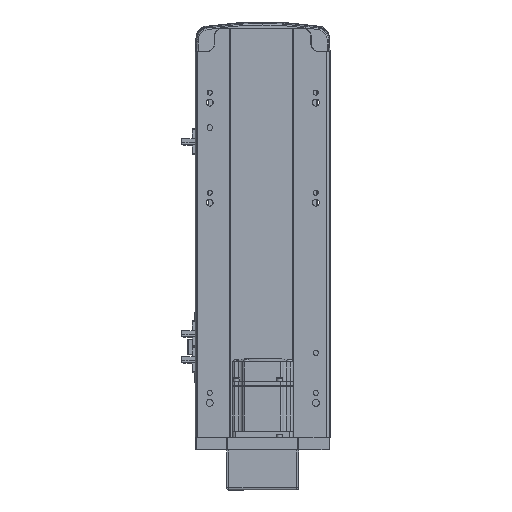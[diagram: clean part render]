
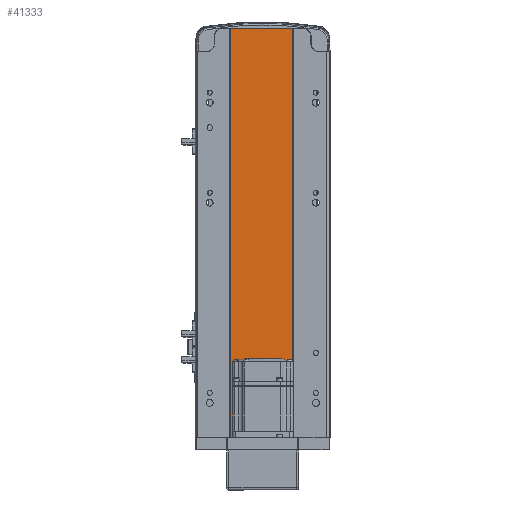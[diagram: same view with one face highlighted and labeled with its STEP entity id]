
A CAD part, front view. The second image highlights one B-rep face of the part: STEP entity #41333.
In plain terms, the highlighted planar face has unit normal (0, -1, 0).
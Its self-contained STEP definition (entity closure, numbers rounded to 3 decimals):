
#219 = LINE ( 'NONE', #35400, #46559 ) ;
#2112 = CARTESIAN_POINT ( 'NONE',  ( 30., 1., 0. ) ) ;
#2823 = PLANE ( 'NONE',  #12936 ) ;
#4327 = DIRECTION ( 'NONE',  ( 1., 0., 0. ) ) ;
#4947 = ORIENTED_EDGE ( 'NONE', *, *, #8948, .F. ) ;
#5059 = VECTOR ( 'NONE', #31961, 1000. ) ;
#5945 = ORIENTED_EDGE ( 'NONE', *, *, #37896, .T. ) ;
#8648 = DIRECTION ( 'NONE',  ( 0., 0., -1. ) ) ;
#8948 = EDGE_CURVE ( 'NONE', #23251, #11587, #16581, .T. ) ;
#11587 = VERTEX_POINT ( 'NONE', #20978 ) ;
#12936 = AXIS2_PLACEMENT_3D ( 'NONE', #33256, #50217, #37826 ) ;
#13004 = EDGE_CURVE ( 'NONE', #11587, #39851, #219, .T. ) ;
#14001 = FACE_OUTER_BOUND ( 'NONE', #52992, .T. ) ;
#16581 = LINE ( 'NONE', #28157, #5059 ) ;
#17733 = CARTESIAN_POINT ( 'NONE',  ( -32., 1., 409. ) ) ;
#18911 = LINE ( 'NONE', #35122, #29179 ) ;
#20978 = CARTESIAN_POINT ( 'NONE',  ( 30., 1., 409. ) ) ;
#23251 = VERTEX_POINT ( 'NONE', #51225 ) ;
#24754 = CARTESIAN_POINT ( 'NONE',  ( -32., 1., 0. ) ) ;
#28157 = CARTESIAN_POINT ( 'NONE',  ( -32., 1., 409. ) ) ;
#28519 = ORIENTED_EDGE ( 'NONE', *, *, #13004, .F. ) ;
#29179 = VECTOR ( 'NONE', #4327, 1000. ) ;
#31961 = DIRECTION ( 'NONE',  ( 1., 0., 0. ) ) ;
#33256 = CARTESIAN_POINT ( 'NONE',  ( -32., 1., 409. ) ) ;
#33388 = VERTEX_POINT ( 'NONE', #24754 ) ;
#35122 = CARTESIAN_POINT ( 'NONE',  ( -32., 1., 0. ) ) ;
#35400 = CARTESIAN_POINT ( 'NONE',  ( 30., 1., 409. ) ) ;
#35953 = DIRECTION ( 'NONE',  ( 0., 0., -1. ) ) ;
#37826 = DIRECTION ( 'NONE',  ( -1., 0., 0. ) ) ;
#37896 = EDGE_CURVE ( 'NONE', #23251, #33388, #47935, .T. ) ;
#39851 = VERTEX_POINT ( 'NONE', #2112 ) ;
#41333 = ADVANCED_FACE ( 'NONE', ( #14001 ), #2823, .F. ) ;
#46559 = VECTOR ( 'NONE', #35953, 1000. ) ;
#47635 = EDGE_CURVE ( 'NONE', #33388, #39851, #18911, .T. ) ;
#47935 = LINE ( 'NONE', #17733, #50008 ) ;
#50008 = VECTOR ( 'NONE', #8648, 1000. ) ;
#50217 = DIRECTION ( 'NONE',  ( 0., 1., 0. ) ) ;
#51225 = CARTESIAN_POINT ( 'NONE',  ( -32., 1., 409. ) ) ;
#52829 = ORIENTED_EDGE ( 'NONE', *, *, #47635, .T. ) ;
#52992 = EDGE_LOOP ( 'NONE', ( #52829, #28519, #4947, #5945 ) ) ;
